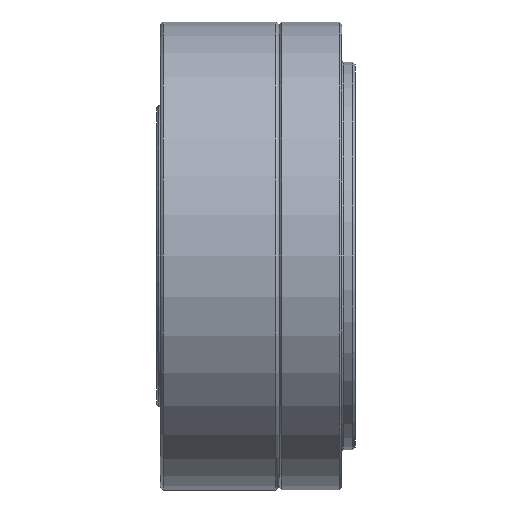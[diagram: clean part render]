
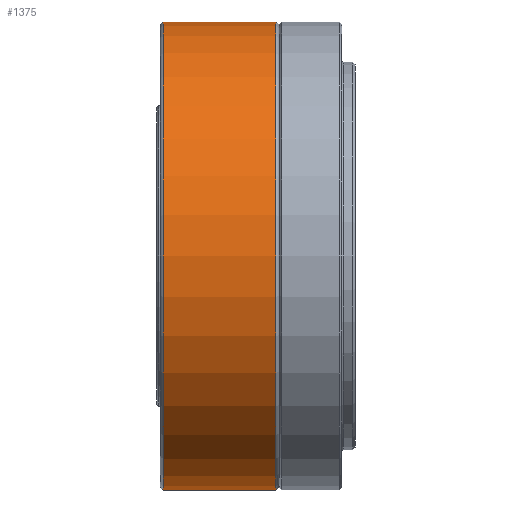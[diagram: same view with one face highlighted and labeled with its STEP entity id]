
A CAD part, front view. The second image highlights one B-rep face of the part: STEP entity #1375.
In plain terms, the highlighted cylindrical face has radius 35 mm (diameter 70 mm), a partial arc.
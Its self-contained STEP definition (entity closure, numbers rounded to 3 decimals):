
#4 = CARTESIAN_POINT ( 'NONE',  ( 3.588, 1.215, 35. ) ) ;
#105 = AXIS2_PLACEMENT_3D ( 'NONE', #5728, #1139, #6503 ) ;
#283 = DIRECTION ( 'NONE',  ( -1., 0., 0. ) ) ;
#511 = VERTEX_POINT ( 'NONE', #5811 ) ;
#1139 = DIRECTION ( 'NONE',  ( -1., 0., 0. ) ) ;
#1375 = ADVANCED_FACE ( 'NONE', ( #5509 ), #7329, .T. ) ;
#1616 = LINE ( 'NONE', #4308, #8022 ) ;
#1783 = ORIENTED_EDGE ( 'NONE', *, *, #7409, .F. ) ;
#1959 = CIRCLE ( 'NONE', #105, 35. ) ;
#2047 = CARTESIAN_POINT ( 'NONE',  ( -13.274, 1.215, 70. ) ) ;
#2054 = CARTESIAN_POINT ( 'NONE',  ( 3.588, 1.215, 105. ) ) ;
#2075 = AXIS2_PLACEMENT_3D ( 'NONE', #2047, #7431, #2820 ) ;
#2172 = ORIENTED_EDGE ( 'NONE', *, *, #9228, .T. ) ;
#2361 = ORIENTED_EDGE ( 'NONE', *, *, #8287, .T. ) ;
#2561 = CIRCLE ( 'NONE', #2075, 35. ) ;
#2820 = DIRECTION ( 'NONE',  ( 0., 0., 1. ) ) ;
#2918 = VERTEX_POINT ( 'NONE', #4 ) ;
#3637 = LINE ( 'NONE', #4912, #7720 ) ;
#4094 = ORIENTED_EDGE ( 'NONE', *, *, #6227, .F. ) ;
#4306 = EDGE_LOOP ( 'NONE', ( #1783, #2361, #2172, #4094 ) ) ;
#4308 = CARTESIAN_POINT ( 'NONE',  ( -27.955, 1.215, 35. ) ) ;
#4347 = CARTESIAN_POINT ( 'NONE',  ( -13.274, 1.215, 35. ) ) ;
#4912 = CARTESIAN_POINT ( 'NONE',  ( -27.955, 1.215, 105. ) ) ;
#5509 = FACE_OUTER_BOUND ( 'NONE', #4306, .T. ) ;
#5728 = CARTESIAN_POINT ( 'NONE',  ( 3.588, 1.215, 70. ) ) ;
#5811 = CARTESIAN_POINT ( 'NONE',  ( -13.274, 1.215, 105. ) ) ;
#5822 = DIRECTION ( 'NONE',  ( -1., 0., 0. ) ) ;
#5921 = DIRECTION ( 'NONE',  ( -1., 0., 0. ) ) ;
#6227 = EDGE_CURVE ( 'NONE', #8802, #511, #2561, .T. ) ;
#6299 = AXIS2_PLACEMENT_3D ( 'NONE', #9053, #5921, #8212 ) ;
#6503 = DIRECTION ( 'NONE',  ( 0., 0., 1. ) ) ;
#7329 = CYLINDRICAL_SURFACE ( 'NONE', #6299, 35. ) ;
#7409 = EDGE_CURVE ( 'NONE', #2918, #8802, #1616, .T. ) ;
#7431 = DIRECTION ( 'NONE',  ( -1., 0., 0. ) ) ;
#7720 = VECTOR ( 'NONE', #283, 1000. ) ;
#8022 = VECTOR ( 'NONE', #5822, 1000. ) ;
#8212 = DIRECTION ( 'NONE',  ( 0., 0., 1. ) ) ;
#8287 = EDGE_CURVE ( 'NONE', #2918, #10007, #1959, .T. ) ;
#8802 = VERTEX_POINT ( 'NONE', #4347 ) ;
#9053 = CARTESIAN_POINT ( 'NONE',  ( -27.955, 1.215, 70. ) ) ;
#9228 = EDGE_CURVE ( 'NONE', #10007, #511, #3637, .T. ) ;
#10007 = VERTEX_POINT ( 'NONE', #2054 ) ;
